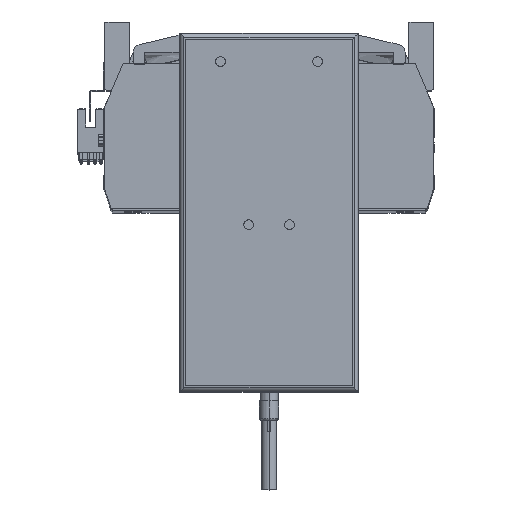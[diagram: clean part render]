
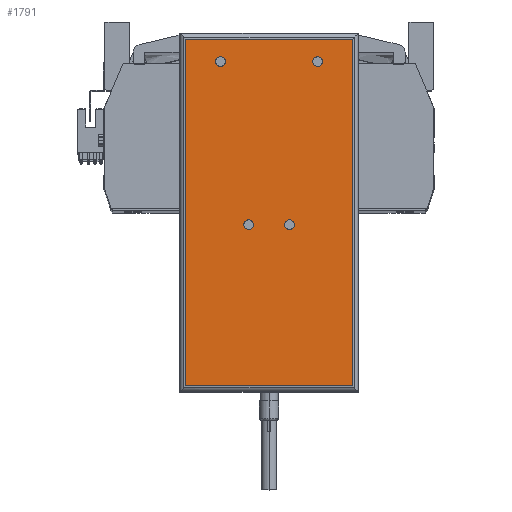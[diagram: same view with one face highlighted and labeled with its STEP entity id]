
A CAD part, top view. The second image highlights one B-rep face of the part: STEP entity #1791.
In plain terms, the highlighted planar face has unit normal (0, 0, 1) as drawn and (0, 0, -1) by its records, which use the part's own axes.
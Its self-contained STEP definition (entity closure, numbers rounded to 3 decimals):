
#73 = DIRECTION ( 'NONE',  ( 0., 0., 1. ) ) ;
#217 = FACE_BOUND ( 'NONE', #29536, .T. ) ;
#343 = CARTESIAN_POINT ( 'NONE',  ( -8., -6.25, 0. ) ) ;
#1154 = DIRECTION ( 'NONE',  ( 0., 0., -1. ) ) ;
#1234 = CARTESIAN_POINT ( 'NONE',  ( -27.5, 77.75, 0. ) ) ;
#1511 = DIRECTION ( 'NONE',  ( -1., 0., 0. ) ) ;
#1735 = AXIS2_PLACEMENT_3D ( 'NONE', #47338, #73, #5206 ) ;
#1791 = ADVANCED_FACE ( 'NONE', ( #30994, #217, #40889, #30401, #29742 ), #19660, .F. ) ;
#2178 = EDGE_CURVE ( 'NONE', #40422, #12934, #25437, .T. ) ;
#2297 = CIRCLE ( 'NONE', #32717, 2.5 ) ;
#2430 = AXIS2_PLACEMENT_3D ( 'NONE', #10035, #37630, #37805 ) ;
#2644 = EDGE_CURVE ( 'NONE', #37714, #16959, #15591, .T. ) ;
#2781 = EDGE_CURVE ( 'NONE', #14372, #48626, #43399, .T. ) ;
#3070 = CIRCLE ( 'NONE', #25265, 2.5 ) ;
#3131 = CARTESIAN_POINT ( 'NONE',  ( -25., 77.75, 0. ) ) ;
#3291 = VECTOR ( 'NONE', #5856, 1000. ) ;
#3471 = DIRECTION ( 'NONE',  ( -1., 0., 0. ) ) ;
#4086 = CARTESIAN_POINT ( 'NONE',  ( -25., 77.75, 0. ) ) ;
#4695 = ORIENTED_EDGE ( 'NONE', *, *, #45240, .T. ) ;
#5206 = DIRECTION ( 'NONE',  ( 1., 0., 0. ) ) ;
#5804 = DIRECTION ( 'NONE',  ( 0., -1., 0. ) ) ;
#5856 = DIRECTION ( 'NONE',  ( 1., 0., 0. ) ) ;
#6685 = ORIENTED_EDGE ( 'NONE', *, *, #24569, .F. ) ;
#6766 = ORIENTED_EDGE ( 'NONE', *, *, #21395, .T. ) ;
#7263 = CARTESIAN_POINT ( 'NONE',  ( -10.5, -6.25, 0. ) ) ;
#7531 = CARTESIAN_POINT ( 'NONE',  ( 27.5, 77.75, 0. ) ) ;
#7924 = EDGE_CURVE ( 'NONE', #35091, #40422, #45117, .T. ) ;
#7945 = ORIENTED_EDGE ( 'NONE', *, *, #34797, .F. ) ;
#8955 = EDGE_LOOP ( 'NONE', ( #6685, #23197 ) ) ;
#9571 = DIRECTION ( 'NONE',  ( 0., 0., -1. ) ) ;
#10035 = CARTESIAN_POINT ( 'NONE',  ( 25., 77.75, 0. ) ) ;
#11077 = VERTEX_POINT ( 'NONE', #42006 ) ;
#11176 = CIRCLE ( 'NONE', #42896, 2.5 ) ;
#11477 = DIRECTION ( 'NONE',  ( 0., 0., -1. ) ) ;
#11823 = EDGE_CURVE ( 'NONE', #48626, #14372, #2297, .T. ) ;
#12934 = VERTEX_POINT ( 'NONE', #15078 ) ;
#14354 = DIRECTION ( 'NONE',  ( -1., 0., 0. ) ) ;
#14372 = VERTEX_POINT ( 'NONE', #38183 ) ;
#14507 = VECTOR ( 'NONE', #27912, 1000. ) ;
#14918 = AXIS2_PLACEMENT_3D ( 'NONE', #30877, #34017, #14354 ) ;
#14920 = VERTEX_POINT ( 'NONE', #40130 ) ;
#14945 = LINE ( 'NONE', #33171, #38990 ) ;
#15078 = CARTESIAN_POINT ( 'NONE',  ( 43., 89.25, 0. ) ) ;
#15507 = DIRECTION ( 'NONE',  ( 0., 0., -1. ) ) ;
#15591 = CIRCLE ( 'NONE', #2430, 2.5 ) ;
#16365 = CARTESIAN_POINT ( 'NONE',  ( -46., -89.25, 0. ) ) ;
#16441 = EDGE_LOOP ( 'NONE', ( #4695, #6766, #46322, #40263 ) ) ;
#16959 = VERTEX_POINT ( 'NONE', #7531 ) ;
#18030 = CIRCLE ( 'NONE', #44020, 2.5 ) ;
#18572 = CARTESIAN_POINT ( 'NONE',  ( -43., -89.25, 0. ) ) ;
#18744 = VERTEX_POINT ( 'NONE', #39750 ) ;
#19660 = PLANE ( 'NONE',  #1735 ) ;
#20440 = EDGE_LOOP ( 'NONE', ( #45905, #25019 ) ) ;
#20989 = ORIENTED_EDGE ( 'NONE', *, *, #40458, .F. ) ;
#21395 = EDGE_CURVE ( 'NONE', #18744, #35091, #23723, .T. ) ;
#21805 = CARTESIAN_POINT ( 'NONE',  ( 13., -6.25, 0. ) ) ;
#22884 = DIRECTION ( 'NONE',  ( -1., 0., 0. ) ) ;
#23197 = ORIENTED_EDGE ( 'NONE', *, *, #45821, .F. ) ;
#23233 = CARTESIAN_POINT ( 'NONE',  ( 25., 77.75, 0. ) ) ;
#23723 = LINE ( 'NONE', #16365, #14507 ) ;
#24289 = CIRCLE ( 'NONE', #39791, 2.5 ) ;
#24569 = EDGE_CURVE ( 'NONE', #38697, #14920, #37448, .T. ) ;
#24692 = CARTESIAN_POINT ( 'NONE',  ( 10.5, -6.25, 0. ) ) ;
#24881 = CARTESIAN_POINT ( 'NONE',  ( -10.5, -6.25, 0. ) ) ;
#25019 = ORIENTED_EDGE ( 'NONE', *, *, #11823, .F. ) ;
#25265 = AXIS2_PLACEMENT_3D ( 'NONE', #7263, #32066, #34815 ) ;
#25406 = CARTESIAN_POINT ( 'NONE',  ( -43., 89.25, 0. ) ) ;
#25437 = LINE ( 'NONE', #29247, #3291 ) ;
#25946 = VERTEX_POINT ( 'NONE', #343 ) ;
#26566 = CARTESIAN_POINT ( 'NONE',  ( -43., -92.25, 0. ) ) ;
#27912 = DIRECTION ( 'NONE',  ( -1., 0., 0. ) ) ;
#29247 = CARTESIAN_POINT ( 'NONE',  ( -46., 89.25, 0. ) ) ;
#29536 = EDGE_LOOP ( 'NONE', ( #45133, #20989 ) ) ;
#29742 = FACE_BOUND ( 'NONE', #48319, .T. ) ;
#30401 = FACE_BOUND ( 'NONE', #8955, .T. ) ;
#30877 = CARTESIAN_POINT ( 'NONE',  ( 10.5, -6.25, 0. ) ) ;
#30994 = FACE_OUTER_BOUND ( 'NONE', #16441, .T. ) ;
#31585 = EDGE_CURVE ( 'NONE', #11077, #25946, #3070, .T. ) ;
#32066 = DIRECTION ( 'NONE',  ( 0., 0., -1. ) ) ;
#32717 = AXIS2_PLACEMENT_3D ( 'NONE', #24692, #1154, #1511 ) ;
#33171 = CARTESIAN_POINT ( 'NONE',  ( 43., -92.25, 0. ) ) ;
#34017 = DIRECTION ( 'NONE',  ( 0., 0., -1. ) ) ;
#34485 = AXIS2_PLACEMENT_3D ( 'NONE', #4086, #11477, #42919 ) ;
#34797 = EDGE_CURVE ( 'NONE', #16959, #37714, #18030, .T. ) ;
#34815 = DIRECTION ( 'NONE',  ( -1., 0., 0. ) ) ;
#35091 = VERTEX_POINT ( 'NONE', #18572 ) ;
#36446 = DIRECTION ( 'NONE',  ( -1., 0., 0. ) ) ;
#37448 = CIRCLE ( 'NONE', #34485, 2.5 ) ;
#37630 = DIRECTION ( 'NONE',  ( 0., 0., -1. ) ) ;
#37714 = VERTEX_POINT ( 'NONE', #44985 ) ;
#37805 = DIRECTION ( 'NONE',  ( -1., 0., 0. ) ) ;
#38183 = CARTESIAN_POINT ( 'NONE',  ( 8., -6.25, 0. ) ) ;
#38697 = VERTEX_POINT ( 'NONE', #1234 ) ;
#38990 = VECTOR ( 'NONE', #5804, 1000. ) ;
#39750 = CARTESIAN_POINT ( 'NONE',  ( 43., -89.25, 0. ) ) ;
#39791 = AXIS2_PLACEMENT_3D ( 'NONE', #24881, #9571, #36446 ) ;
#40130 = CARTESIAN_POINT ( 'NONE',  ( -22.5, 77.75, 0. ) ) ;
#40263 = ORIENTED_EDGE ( 'NONE', *, *, #2178, .T. ) ;
#40422 = VERTEX_POINT ( 'NONE', #25406 ) ;
#40458 = EDGE_CURVE ( 'NONE', #25946, #11077, #24289, .T. ) ;
#40889 = FACE_BOUND ( 'NONE', #20440, .T. ) ;
#42006 = CARTESIAN_POINT ( 'NONE',  ( -13., -6.25, 0. ) ) ;
#42677 = DIRECTION ( 'NONE',  ( 0., 1., 0. ) ) ;
#42896 = AXIS2_PLACEMENT_3D ( 'NONE', #3131, #15507, #22884 ) ;
#42919 = DIRECTION ( 'NONE',  ( -1., 0., 0. ) ) ;
#43161 = DIRECTION ( 'NONE',  ( 0., 0., -1. ) ) ;
#43399 = CIRCLE ( 'NONE', #14918, 2.5 ) ;
#43870 = VECTOR ( 'NONE', #42677, 1000. ) ;
#44020 = AXIS2_PLACEMENT_3D ( 'NONE', #23233, #43161, #3471 ) ;
#44985 = CARTESIAN_POINT ( 'NONE',  ( 22.5, 77.75, 0. ) ) ;
#45117 = LINE ( 'NONE', #26566, #43870 ) ;
#45133 = ORIENTED_EDGE ( 'NONE', *, *, #31585, .F. ) ;
#45240 = EDGE_CURVE ( 'NONE', #12934, #18744, #14945, .T. ) ;
#45821 = EDGE_CURVE ( 'NONE', #14920, #38697, #11176, .T. ) ;
#45905 = ORIENTED_EDGE ( 'NONE', *, *, #2781, .F. ) ;
#46322 = ORIENTED_EDGE ( 'NONE', *, *, #7924, .T. ) ;
#47278 = ORIENTED_EDGE ( 'NONE', *, *, #2644, .F. ) ;
#47338 = CARTESIAN_POINT ( 'NONE',  ( -46., -92.25, 0. ) ) ;
#48319 = EDGE_LOOP ( 'NONE', ( #47278, #7945 ) ) ;
#48626 = VERTEX_POINT ( 'NONE', #21805 ) ;
